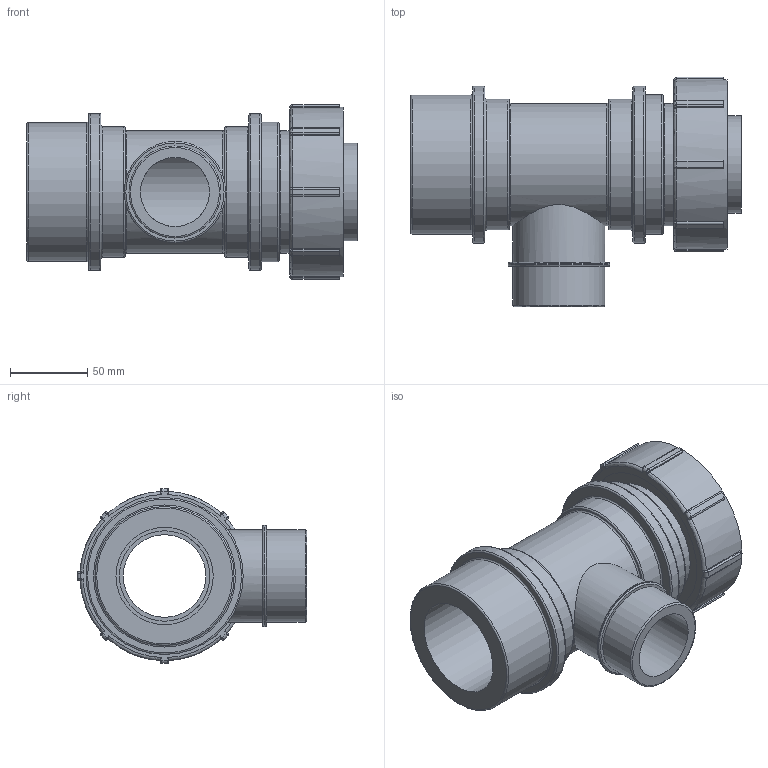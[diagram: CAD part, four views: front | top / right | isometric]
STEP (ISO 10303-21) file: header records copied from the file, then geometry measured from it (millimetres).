
FILE_DESCRIPTION(/* description */ ('PLASSON MODULAR MALE TEE 63-2"-63'),/* implementation_level */ '2;1');
FILE_NAME(/* name */ 'C:\Dropbox\KIMPROJECTS-Inventor\99-16-3568-Processing\Silver+MF ISRAEL\0784L6\0784L60630200A.ipt.stp',/* time_stamp */ '2018-04-09T13:01:22+03:00',/* author */ ('KIM'),/* organization */ (''),/* preprocessor_version */ 'ST-DEVELOPER v15.6',/* originating_system */ 'Autodesk Inventor 2015',/* authorisation */ '');
FILE_SCHEMA (('AUTOMOTIVE_DESIGN { 1 0 10303 214 3 1 1 }'));
Length unit declared in the file: millimetre
Products named in the file (1): 0784L60630200A
Bounding box: 214 x 148.5 x 113 mm (x, y, z)
Volume: 797317.7 mm3; surface area: 145442.6 mm2
Topology: 1 solids, 1 shells, 150 faces, 350 edges, 218 vertices
Faces by surface type: cylinder 59, plane 50, torus 25, bspline 16
Full cylindrical faces by diameter (mm): 44.711 x1, 53.55 x1, 58.59 x1, 59.614 x2, 63 x2, 65.575 x1, 79.1 x2, 84.75 x2, 90 x1, 90.4 x1, 96.05 x1, 101.7 x2, 103.96 x1, 109.61 x1
Entity records: 4512 total; most frequent: CARTESIAN_POINT 1221, DIRECTION 702, ORIENTED_EDGE 620, EDGE_CURVE 310, AXIS2_PLACEMENT_3D 291, VERTEX_POINT 214, EDGE_LOOP 206, CIRCLE 156
